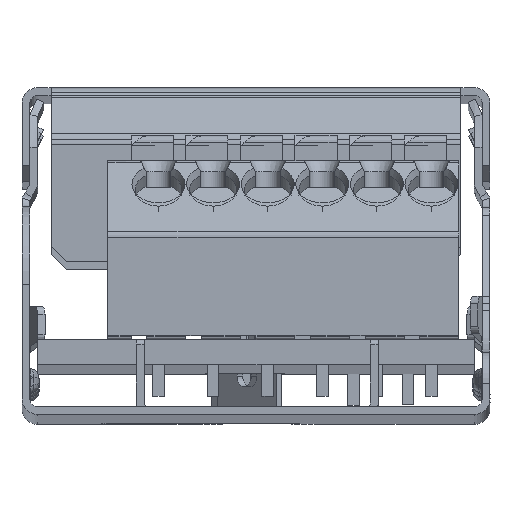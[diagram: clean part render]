
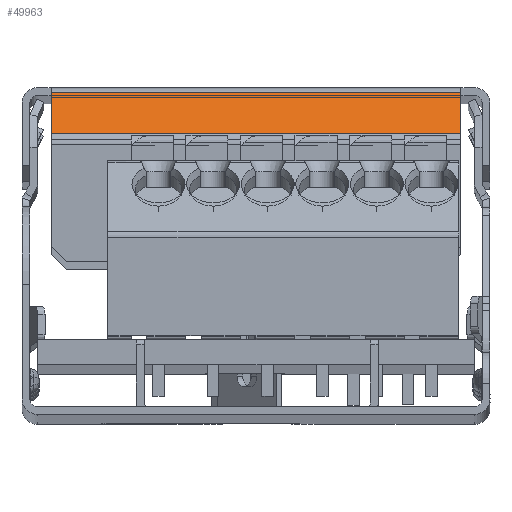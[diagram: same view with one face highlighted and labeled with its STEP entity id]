
A CAD part, top view. The second image highlights one B-rep face of the part: STEP entity #49963.
In plain terms, the highlighted planar face has unit normal (0, 0.707, 0.707).
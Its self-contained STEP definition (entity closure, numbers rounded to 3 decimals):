
#1233 = PLANE ( 'NONE',  #11560 ) ;
#1699 = DIRECTION ( 'NONE',  ( -1., 0., 0. ) ) ;
#2845 = CARTESIAN_POINT ( 'NONE',  ( 129.643, 198.402, 426.686 ) ) ;
#3226 = VECTOR ( 'NONE', #24363, 1000. ) ;
#4487 = LINE ( 'NONE', #32477, #3226 ) ;
#5055 = CARTESIAN_POINT ( 'NONE',  ( 142.779, 201.076, 424.012 ) ) ;
#5242 = DIRECTION ( 'NONE',  ( 0., 0.707, 0.707 ) ) ;
#5811 = FACE_OUTER_BOUND ( 'NONE', #18408, .T. ) ;
#6867 = DIRECTION ( 'NONE',  ( 1., 0., 0. ) ) ;
#11560 = AXIS2_PLACEMENT_3D ( 'NONE', #29284, #5242, #33362 ) ;
#12449 = ORIENTED_EDGE ( 'NONE', *, *, #37361, .T. ) ;
#16849 = VERTEX_POINT ( 'NONE', #5055 ) ;
#17800 = VECTOR ( 'NONE', #1699, 1000. ) ;
#18408 = EDGE_LOOP ( 'NONE', ( #24913, #21776, #25686, #12449 ) ) ;
#20749 = VERTEX_POINT ( 'NONE', #25776 ) ;
#21591 = EDGE_CURVE ( 'NONE', #36936, #16849, #37690, .T. ) ;
#21776 = ORIENTED_EDGE ( 'NONE', *, *, #21591, .T. ) ;
#21884 = EDGE_CURVE ( 'NONE', #20749, #36936, #50194, .T. ) ;
#22664 = CARTESIAN_POINT ( 'NONE',  ( 116.508, 201.076, 424.012 ) ) ;
#24363 = DIRECTION ( 'NONE',  ( 0., -0.707, 0.707 ) ) ;
#24633 = DIRECTION ( 'NONE',  ( 0., 0.707, -0.707 ) ) ;
#24913 = ORIENTED_EDGE ( 'NONE', *, *, #21884, .T. ) ;
#25673 = EDGE_CURVE ( 'NONE', #16849, #32979, #49894, .T. ) ;
#25686 = ORIENTED_EDGE ( 'NONE', *, *, #25673, .T. ) ;
#25776 = CARTESIAN_POINT ( 'NONE',  ( 116.508, 198.402, 426.686 ) ) ;
#27556 = VECTOR ( 'NONE', #6867, 1000. ) ;
#29284 = CARTESIAN_POINT ( 'NONE',  ( 142.779, 201.076, 424.012 ) ) ;
#32477 = CARTESIAN_POINT ( 'NONE',  ( 116.508, 199.739, 425.349 ) ) ;
#32979 = VERTEX_POINT ( 'NONE', #22664 ) ;
#33362 = DIRECTION ( 'NONE',  ( -1., 0., 0. ) ) ;
#33837 = CARTESIAN_POINT ( 'NONE',  ( 129.643, 201.076, 424.012 ) ) ;
#36440 = VECTOR ( 'NONE', #24633, 1000. ) ;
#36639 = CARTESIAN_POINT ( 'NONE',  ( 142.779, 199.739, 425.349 ) ) ;
#36936 = VERTEX_POINT ( 'NONE', #49201 ) ;
#37361 = EDGE_CURVE ( 'NONE', #32979, #20749, #4487, .T. ) ;
#37690 = LINE ( 'NONE', #36639, #36440 ) ;
#49201 = CARTESIAN_POINT ( 'NONE',  ( 142.779, 198.402, 426.686 ) ) ;
#49894 = LINE ( 'NONE', #33837, #17800 ) ;
#49963 = ADVANCED_FACE ( 'NONE', ( #5811 ), #1233, .T. ) ;
#50194 = LINE ( 'NONE', #2845, #27556 ) ;
